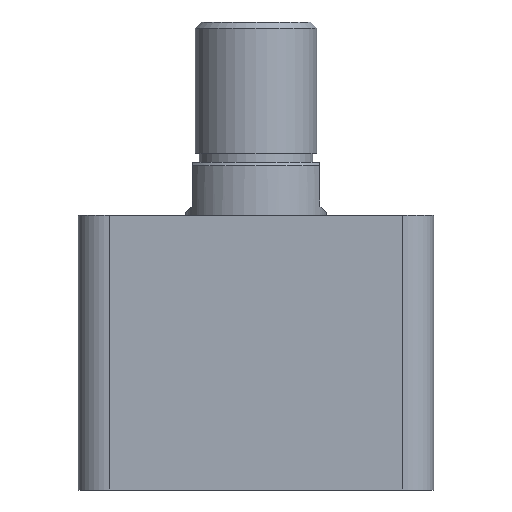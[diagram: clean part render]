
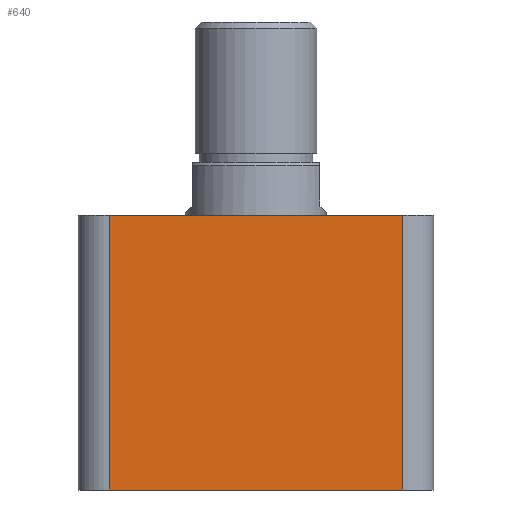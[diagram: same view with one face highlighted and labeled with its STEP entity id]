
A CAD part, front view. The second image highlights one B-rep face of the part: STEP entity #640.
In plain terms, the highlighted planar face has unit normal (0, -1, 0).
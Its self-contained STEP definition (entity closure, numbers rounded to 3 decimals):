
#84 = CARTESIAN_POINT ( 'NONE',  ( -57., -57., 88. ) ) ;
#89 = PLANE ( 'NONE',  #1789 ) ;
#108 = DIRECTION ( 'NONE',  ( 0., 1., 0. ) ) ;
#109 = DIRECTION ( 'NONE',  ( 0., 0., 1. ) ) ;
#167 = ORIENTED_EDGE ( 'NONE', *, *, #2110, .T. ) ;
#173 = ORIENTED_EDGE ( 'NONE', *, *, #2109, .F. ) ;
#183 = ORIENTED_EDGE ( 'NONE', *, *, #2107, .T. ) ;
#184 = ORIENTED_EDGE ( 'NONE', *, *, #2108, .T. ) ;
#547 = CARTESIAN_POINT ( 'NONE',  ( 47., -57., 88. ) ) ;
#557 = CARTESIAN_POINT ( 'NONE',  ( -57., -57., 0. ) ) ;
#558 = DIRECTION ( 'NONE',  ( 1., 0., 0. ) ) ;
#559 = DIRECTION ( 'NONE',  ( 0., 0., 1. ) ) ;
#560 = CARTESIAN_POINT ( 'NONE',  ( -57., -57., 88. ) ) ;
#561 = DIRECTION ( 'NONE',  ( 1., 0., 0. ) ) ;
#562 = CARTESIAN_POINT ( 'NONE',  ( -47., -57., 88. ) ) ;
#563 = DIRECTION ( 'NONE',  ( 0., 0., -1. ) ) ;
#640 = ADVANCED_FACE ( 'NONE', ( #2662 ), #89, .F. ) ;
#743 = EDGE_LOOP ( 'NONE', ( #183, #184, #173, #167 ) ) ;
#1639 = CARTESIAN_POINT ( 'NONE',  ( 47., -57., 88. ) ) ;
#1640 = CARTESIAN_POINT ( 'NONE',  ( -47., -57., 88. ) ) ;
#1642 = CARTESIAN_POINT ( 'NONE',  ( 47., -57., 0. ) ) ;
#1653 = CARTESIAN_POINT ( 'NONE',  ( -47., -57., 0. ) ) ;
#1789 = AXIS2_PLACEMENT_3D ( 'NONE', #84, #108, #109 ) ;
#2107 = EDGE_CURVE ( 'NONE', #2636, #2625, #2327, .T. ) ;
#2108 = EDGE_CURVE ( 'NONE', #2625, #2622, #2321, .T. ) ;
#2109 = EDGE_CURVE ( 'NONE', #2623, #2622, #2331, .T. ) ;
#2110 = EDGE_CURVE ( 'NONE', #2623, #2636, #2333, .T. ) ;
#2321 = LINE ( 'NONE', #547, #2332 ) ;
#2327 = LINE ( 'NONE', #557, #2330 ) ;
#2330 = VECTOR ( 'NONE', #558, 1000. ) ;
#2331 = LINE ( 'NONE', #560, #2334 ) ;
#2332 = VECTOR ( 'NONE', #559, 1000. ) ;
#2333 = LINE ( 'NONE', #562, #2336 ) ;
#2334 = VECTOR ( 'NONE', #561, 1000. ) ;
#2336 = VECTOR ( 'NONE', #563, 1000. ) ;
#2622 = VERTEX_POINT ( 'NONE', #1639 ) ;
#2623 = VERTEX_POINT ( 'NONE', #1640 ) ;
#2625 = VERTEX_POINT ( 'NONE', #1642 ) ;
#2636 = VERTEX_POINT ( 'NONE', #1653 ) ;
#2662 = FACE_OUTER_BOUND ( 'NONE', #743, .T. ) ;
